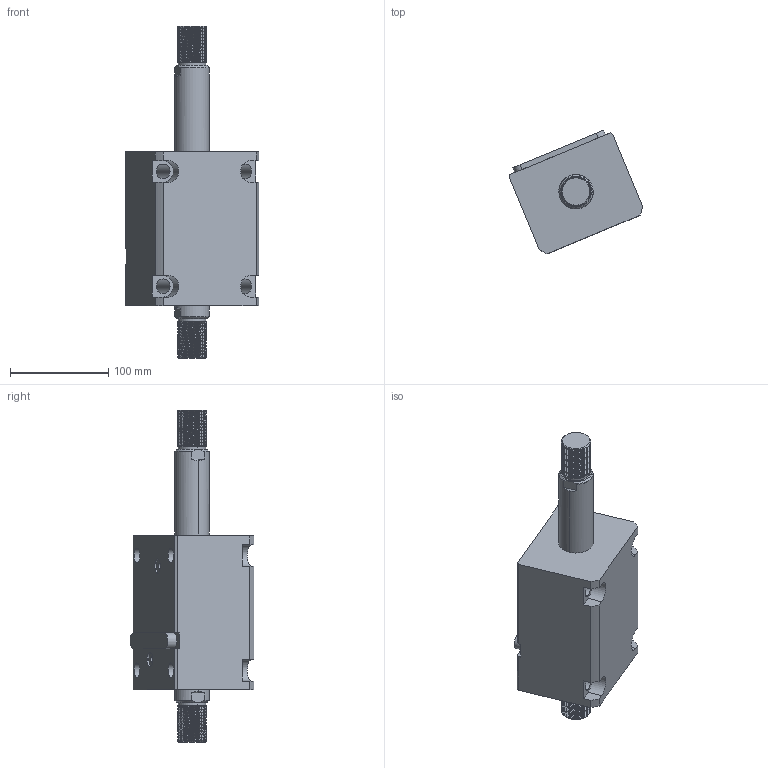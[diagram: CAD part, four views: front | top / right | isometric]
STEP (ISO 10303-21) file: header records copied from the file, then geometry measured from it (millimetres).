
FILE_DESCRIPTION (( 'STEP AP214' ), '1' );
FILE_NAME ('chtb-lwm63x75w_asm.STEP', '2018-05-22T01:44:10', ( 'Windows' ), ( 'Microsoft' ), 'SwSTEP 2.0', 'SolidWorks 2015', '' );
FILE_SCHEMA (( 'AUTOMOTIVE_DESIGN' ));
Length unit declared in the file: millimetre
Products named in the file (5): CHTB-SW63X75WHSG; CHTB-LWM63X75NBT; CHTB-LA63PJ; CHTB-63QG; chtb-lwm63x75w_asm
Assembly tree (4 placements, depth 2):
  chtb-lwm63x75w_asm
    CHTB-63QG
    CHTB-LA63PJ
    CHTB-LWM63X75NBT
    CHTB-SW63X75WHSG
Bounding box: 135.77 x 126.06 x 338 mm (x, y, z)
Volume: 1503439.1 mm3; surface area: 200609.6 mm2
Topology: 4 solids, 4 shells, 298 faces, 869 edges, 587 vertices
Faces by surface type: cylinder 203, plane 55, bspline 16, cone 12, torus 12
Entity records: 27660 total; most frequent: CARTESIAN_POINT 20506, ORIENTED_EDGE 1730, DIRECTION 1186, EDGE_CURVE 865, VERTEX_POINT 587, AXIS2_PLACEMENT_3D 440, EDGE_LOOP 326, LINE 306
